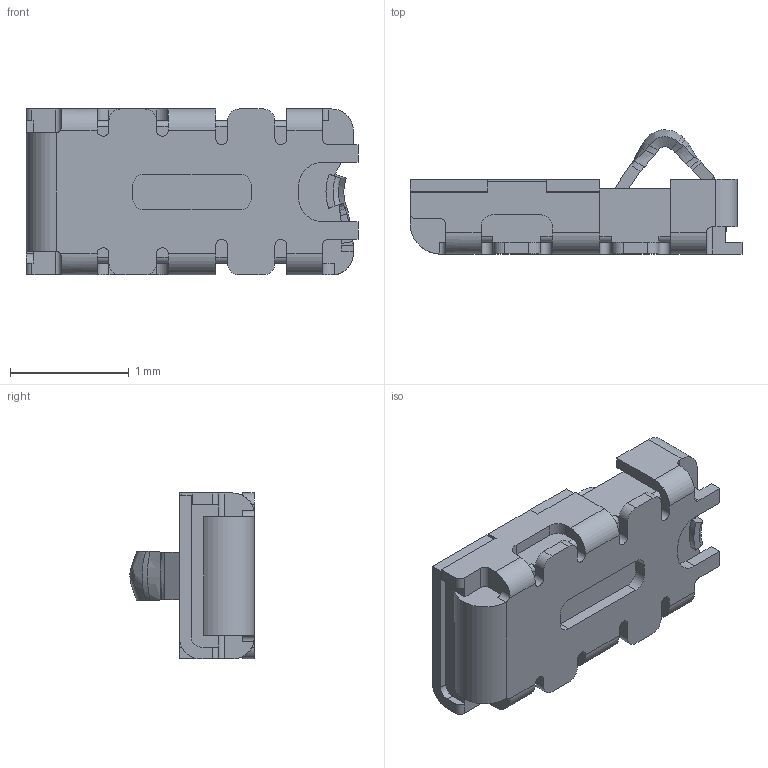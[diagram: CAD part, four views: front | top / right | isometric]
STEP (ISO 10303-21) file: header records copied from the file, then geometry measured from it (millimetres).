
FILE_DESCRIPTION((''),'2;1');
FILE_NAME('3D-2014003-00-00_ASM','2022-04-25T',('TPS'),(''),'CREO PARAMETRIC BY PTC INC, 2015290','CREO PARAMETRIC BY PTC INC, 2015290','');
FILE_SCHEMA(('CONFIG_CONTROL_DESIGN'));
Length unit declared in the file: millimetre
Products named in the file (2): 3D-2014003-00-00; 3D-2014003-00-00_ASM
Assembly tree (1 placements, depth 2):
  3D-2014003-00-00_ASM
    3D-2014003-00-00
Bounding box: 2.8 x 1.05 x 1.4 mm (x, y, z)
Volume: 2 mm3; surface area: 15.1 mm2
Topology: 1 solids, 1 shells, 267 faces, 739 edges, 477 vertices
Faces by surface type: plane 135, cylinder 70, bspline 59, cone 3
Entity records: 10247 total; most frequent: CARTESIAN_POINT 3709, ORIENTED_EDGE 1478, DIRECTION 1165, EDGE_CURVE 739, VERTEX_POINT 477, VECTOR 457, LINE 457, AXIS2_PLACEMENT_3D 354
